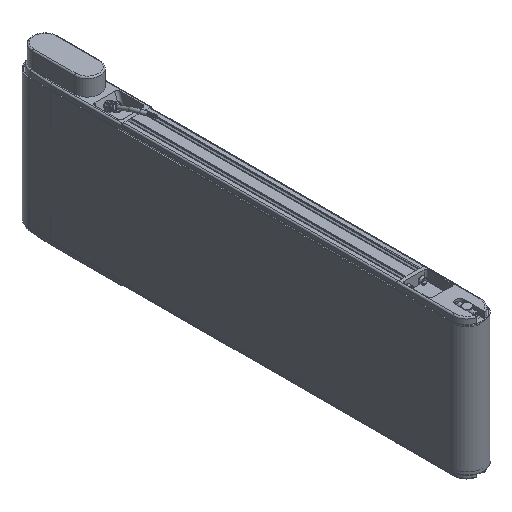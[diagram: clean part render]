
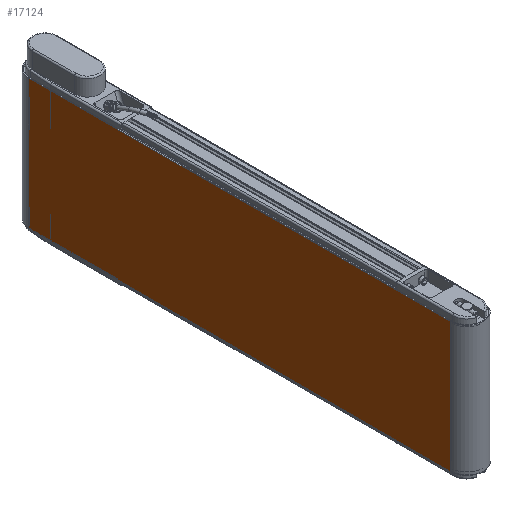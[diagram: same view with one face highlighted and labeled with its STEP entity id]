
A CAD part, isometric view. The second image highlights one B-rep face of the part: STEP entity #17124.
In plain terms, the highlighted planar face has unit normal (-1, 0, 0).
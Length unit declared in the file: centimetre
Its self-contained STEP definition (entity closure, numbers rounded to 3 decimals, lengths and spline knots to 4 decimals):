
#471=PLANE('',#18398);
#1347=FACE_OUTER_BOUND('',#2310,.T.);
#2310=EDGE_LOOP('',(#12215,#12216,#12217,#12218));
#4259=LINE('',#26469,#5600);
#4274=LINE('',#26502,#5615);
#4275=LINE('',#26505,#5616);
#4276=LINE('',#26506,#5617);
#5600=VECTOR('',#21072,1.);
#5615=VECTOR('',#21095,1.);
#5616=VECTOR('',#21098,1.);
#5617=VECTOR('',#21099,1.);
#7117=VERTEX_POINT('',#26463);
#7119=VERTEX_POINT('',#26467);
#7133=VERTEX_POINT('',#26500);
#7134=VERTEX_POINT('',#26504);
#9023=EDGE_CURVE('',#7117,#7119,#4259,.T.);
#9040=EDGE_CURVE('',#7119,#7133,#4274,.T.);
#9041=EDGE_CURVE('',#7133,#7134,#4275,.T.);
#9042=EDGE_CURVE('',#7117,#7134,#4276,.T.);
#12215=ORIENTED_EDGE('',*,*,#9023,.T.);
#12216=ORIENTED_EDGE('',*,*,#9040,.T.);
#12217=ORIENTED_EDGE('',*,*,#9041,.T.);
#12218=ORIENTED_EDGE('',*,*,#9042,.F.);
#17124=ADVANCED_FACE('',(#1347),#471,.T.);
#18398=AXIS2_PLACEMENT_3D('',#26503,#21096,#21097);
#21072=DIRECTION('',(0.,-1.,0.));
#21095=DIRECTION('',(0.,0.,1.));
#21096=DIRECTION('center_axis',(-1.,0.,0.));
#21097=DIRECTION('ref_axis',(0.,0.,
1.));
#21098=DIRECTION('',(0.,1.,0.));
#21099=DIRECTION('',(0.,0.,1.));
#26463=CARTESIAN_POINT('',(-2.33,13.,-9.25));
#26467=CARTESIAN_POINT('',(-2.33,-47.,-9.25));
#26469=CARTESIAN_POINT('',(-2.33,13.,-9.25));
#26500=CARTESIAN_POINT('',(-2.33,-47.,9.25));
#26502=CARTESIAN_POINT('',(-2.33,-47.,0.));
#26503=CARTESIAN_POINT('Origin',(-2.33,13.,0.));
#26504=CARTESIAN_POINT('',(-2.33,13.,9.25));
#26505=CARTESIAN_POINT('',(-2.33,13.,9.25));
#26506=CARTESIAN_POINT('',(-2.33,13.,0.));
